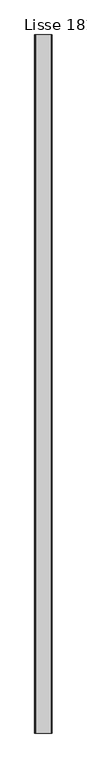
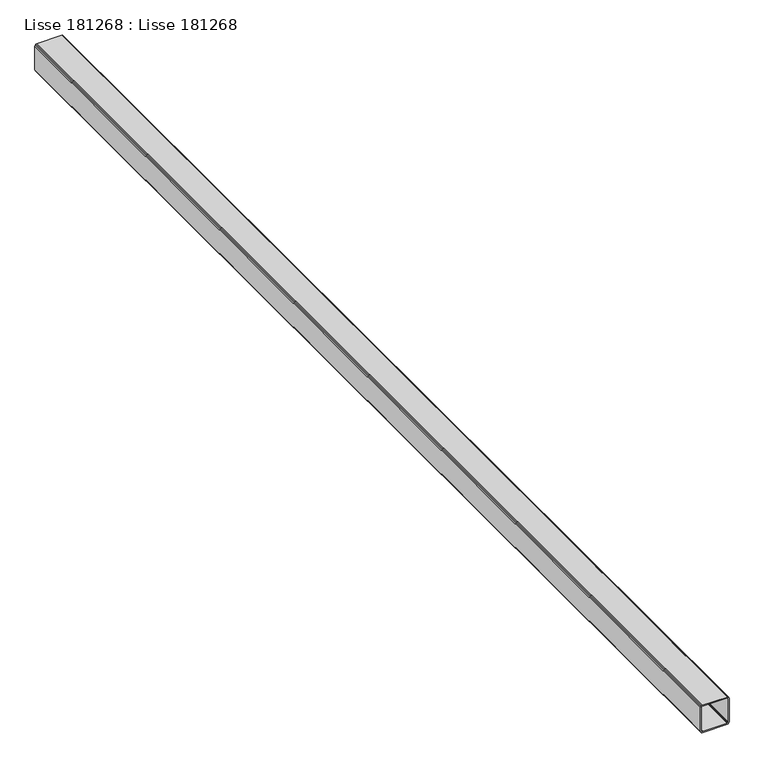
"""IFC4 building model written with IfcOpenShell, lengths in millimetres: beam geometry, Lisse 181268 : Lisse 181268."""

from ifc_helpers import new_model, si_unit, frame, origin, place, context, project, spatial, polyline, outline, extrude, source, transform, mapped, element, save


def lisse_181268_lisse_181268_04920fbb(model_context):
    return source(origin(), model_context, "Body", "SweptSolid", [
        extrude(outline(polyline([(3206.0, -180.0000001), (3203.0, -179.1961526), (3200.8038476, -177.0000001), (3200.0, -174.0000001), (3200.0, -86.0000001), (3200.8038476, -83.0000001), (3203.0, -80.8038477), (3206.0, -80.0000001), (3294.0, -80.0000001), (3297.0, -80.8038477), (3299.1961524, -83.0000001), (3300.0, -86.0000001), (3300.0, -174.0000001), (3299.1961524, -177.0000001), (3297.0, -179.1961526), (3294.0, -180.0000001), (3206.0, -180.0000001)]), holes=[polyline([(3292.0, -176.0000001), (3294.0, -175.4641017), (3295.4641016, -174.0000001), (3296.0, -172.0000001), (3296.0, -88.0000001), (3295.4641016, -86.0000001), (3294.0, -84.5358985), (3292.0, -84.0000001), (3208.0, -84.0000001), (3206.0, -84.5358985), (3204.5358984, -86.0000001), (3204.0, -88.0000001), (3204.0, -172.0000001), (3204.5358984, -174.0000001), (3206.0, -175.4641017), (3208.0, -176.0000001), (3292.0, -176.0000001)])]), frame((0.0, -12715.0, 0.0), z_axis=(0.0, 1.0, 0.0), x_axis=(0.0, 0.0, 1.0)), (0.0, 0.0, 1.0), 4030.0),
    ])


if __name__ == "__main__":
    model = new_model("IFC4")
    model_context = context("Model", 3, world=origin())
    ifc_project = project(units=[si_unit("LENGTHUNIT", "METRE", prefix="MILLI")], contexts=[model_context])
    site = spatial("IfcSite", under=ifc_project)
    building = spatial("IfcBuilding", under=site)
    placement = place(None, origin())
    lisse_181268_lisse_181268_shape = lisse_181268_lisse_181268_04920fbb(model_context)
    element("IfcBeam", 1, ObjectType="Lisse 181268 : Lisse 181268", at=placement, inside=building, context=model_context, shape_type="MappedRepresentation", body=[
        mapped(lisse_181268_lisse_181268_shape, transform((0.0, 0.0, 0.0), x_axis=(1.0, 0.0, 0.0), y_axis=(0.0, 1.0, 0.0), z_axis=(0.0, 0.0, 1.0))),
    ])
    save(model, "model.ifc")
